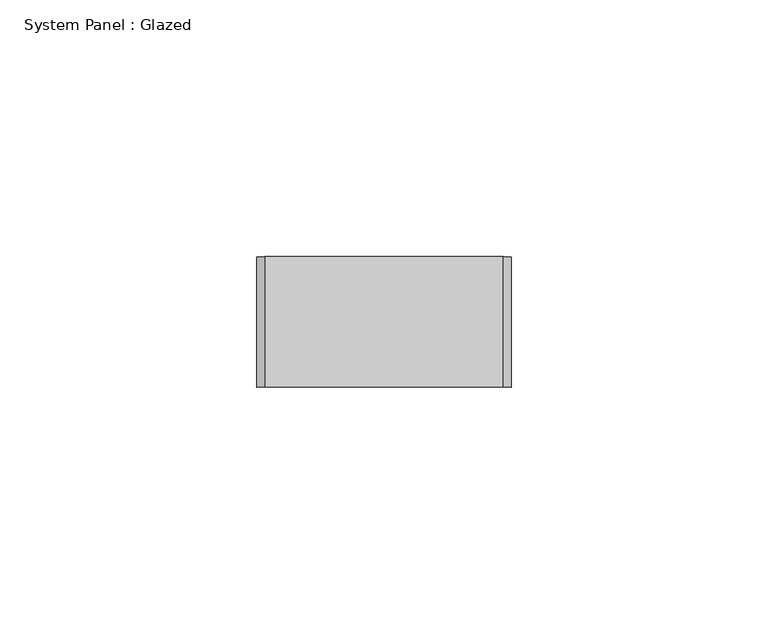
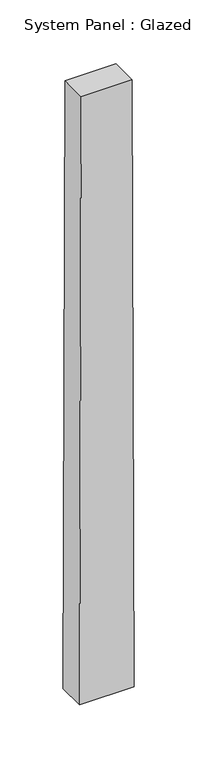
"""IFC4 building model written with IfcOpenShell, lengths in millimetres: plate geometry, System Panel : Glazed."""

from ifc_helpers import new_model, si_unit, frame, origin, place, context, project, spatial, polyline, outline, extrude, source, transform, mapped, element, save


def system_panel_glazed_21f41b6b(model_context):
    return source(origin(), model_context, "Body", "SweptSolid", [
        extrude(outline(polyline([(0.0, -24.7889522), (0.0, 24.7889522), (584.197945, 23.2720439), (584.197945, -23.2720439), (0.0, -24.7889522)])), frame((0.0, -44.45, 0.0), z_axis=(0.0, 1.0, 0.0), x_axis=(0.0, 0.0, 1.0)), (0.0, 0.0, 1.0), 25.4),
    ])


if __name__ == "__main__":
    model = new_model("IFC4")
    model_context = context("Model", 3, world=origin())
    ifc_project = project(units=[si_unit("LENGTHUNIT", "METRE", prefix="MILLI")], contexts=[model_context])
    site = spatial("IfcSite", under=ifc_project)
    building = spatial("IfcBuilding", under=site)
    placement = place(None, origin())
    system_panel_glazed_shape = system_panel_glazed_21f41b6b(model_context)
    element("IfcPlate", 1, ObjectType="System Panel : Glazed", at=placement, inside=building, context=model_context, shape_type="MappedRepresentation", body=[
        mapped(system_panel_glazed_shape, transform((0.0, 0.0, 0.0), x_axis=(1.0, 0.0, 0.0), y_axis=(0.0, 1.0, 0.0), z_axis=(0.0, 0.0, 1.0))),
    ])
    save(model, "model.ifc")
